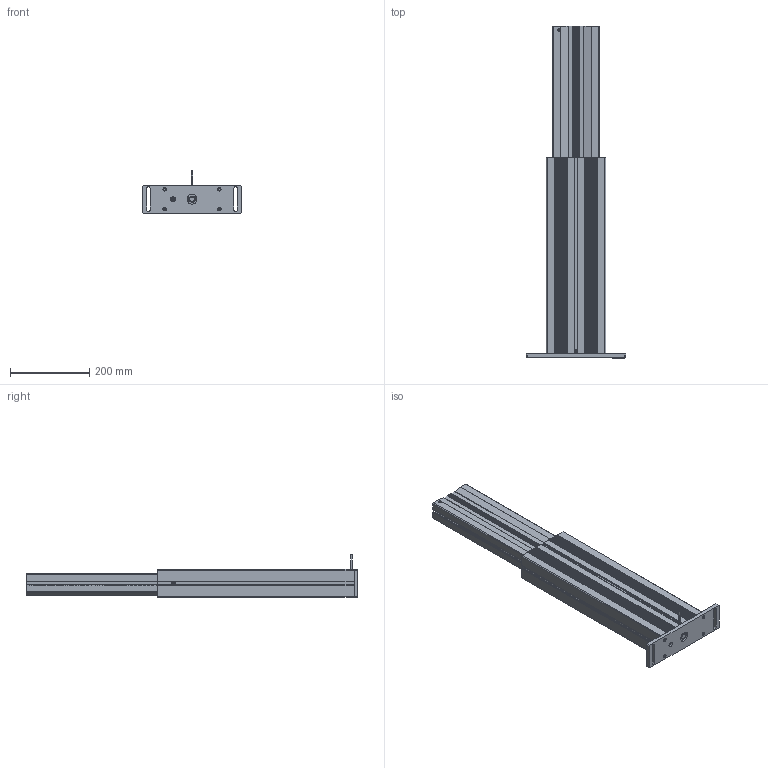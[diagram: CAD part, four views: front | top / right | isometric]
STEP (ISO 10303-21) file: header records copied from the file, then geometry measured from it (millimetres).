
FILE_DESCRIPTION(/* description */ ('Unknown'),/* implementation_level */ '2;1');
FILE_NAME(/* name */ '306.00813_03_ausgefahren',/* time_stamp */ '2019-03-11T17:33:05+01:00',/* author */ ('Unknown'),/* organization */ ('Unknown'),/* preprocessor_version */ 'ST-DEVELOPER v16.7',/* originating_system */ 'DEX',/* authorisation */ $);
FILE_SCHEMA (('AUTOMOTIVE_DESIGN {1 0 10303 214 3 1 1}'));
Products named in the file (16): 306.00813; 115.00073_oa_0; 119.00314; 119.00315; 142.00188; 113.00002_70mm; 124.00123; 142.00166; 109.00024_oa_1; 142.00021; 125.00021; 115.00008_oa_2; 125.00063; 126.00147; 143.00047; 142.00031
Assembly tree (20 placements, depth 3):
  306.00813
    115.00073_oa_0
      119.00314
      119.00315
      142.00188  x2
    113.00002_70mm
    124.00123
    142.00166  x4
    109.00024_oa_1
      142.00021
      125.00021
      115.00008_oa_2
      125.00063
      113.00002_70mm
    126.00147
    143.00047
    142.00031
Bounding box: 250 x 837 x 106.5 mm (x, y, z)
Volume: 2268609.6 mm3; surface area: 1074102.8 mm2
Topology: 17 solids, 17 shells, 2360 faces, 6900 edges, 4593 vertices
Faces by surface type: plane 1323, cylinder 1002, cone 21, torus 12, bspline 1, sphere 1
Full cylindrical faces by diameter (mm): 1.8 x2, 2.2 x2, 3 x1, 3.242 x2, 3.4 x1, 3.5 x1, 4 x4, 4.1 x1, 4.2 x1, 5 x5, 5.5 x4, 6.6 x1, 6.917 x2, 8 x5, 8.5 x4, 8.7 x4, 10 x1, 12.5 x2, 13 x2, 13.5 x1, 14.4 x1, 17.9 x2, 25 x1, 30 x2
Entity records: 87270 total; most frequent: CARTESIAN_POINT 14205, ORIENTED_EDGE 13400, DIRECTION 13124, EDGE_CURVE 6700, VERTEX_POINT 4499, LINE 4482, VECTOR 4482, AXIS2_PLACEMENT_3D 4321
